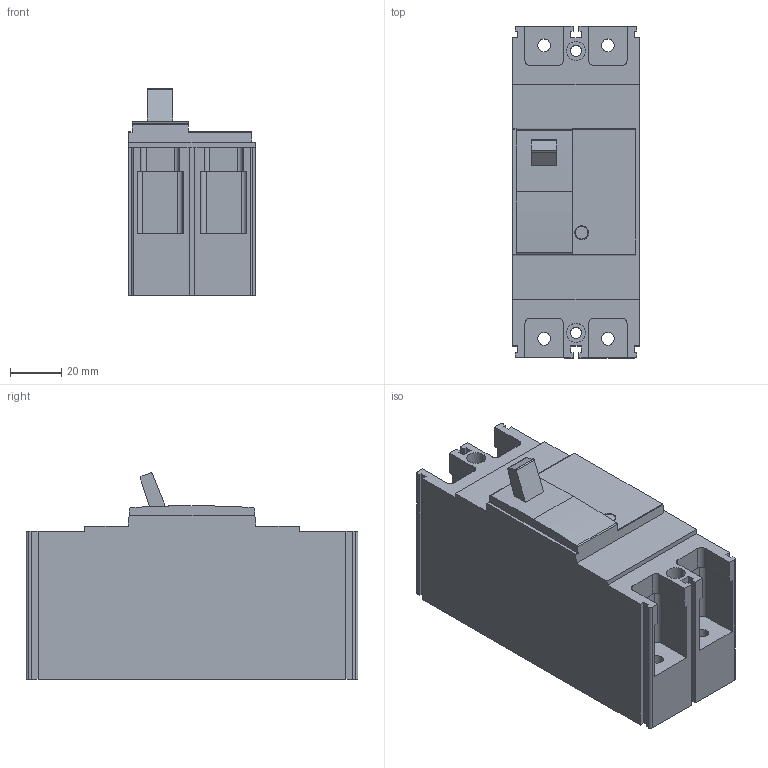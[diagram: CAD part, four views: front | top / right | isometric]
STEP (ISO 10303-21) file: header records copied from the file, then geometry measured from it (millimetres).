
FILE_DESCRIPTION (( 'STEP AP203' ), '1' );
FILE_NAME ('SMART 100AF 2P (50A 捞窍).STEP', '2018-01-04T01:17:00', ( '' ), ( '' ), 'SwSTEP 2.0', 'SolidWorks 2015', '' );
FILE_SCHEMA (( 'CONFIG_CONTROL_DESIGN' ));
Length unit declared in the file: millimetre
Products named in the file (1): SMART 100AF 2P (50A 捞窍)
Bounding box: 49.6 x 130 x 80.91 mm (x, y, z)
Volume: 352052.1 mm3; surface area: 45329.6 mm2
Topology: 1 solids, 1 shells, 141 faces, 404 edges, 270 vertices
Faces by surface type: plane 90, cylinder 51
Entity records: 4719 total; most frequent: CARTESIAN_POINT 816, ORIENTED_EDGE 808, DIRECTION 792, EDGE_CURVE 404, VECTOR 300, LINE 300, VERTEX_POINT 270, AXIS2_PLACEMENT_3D 246
